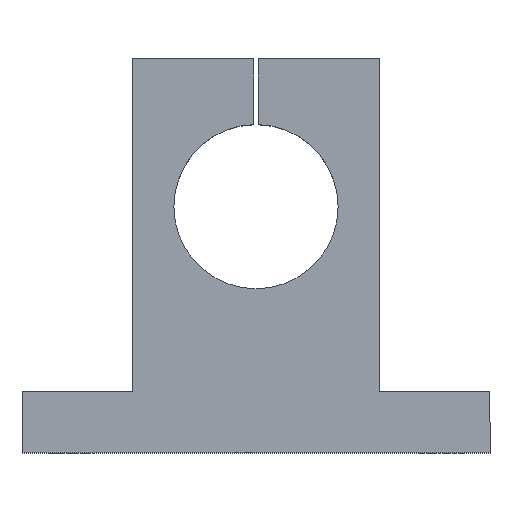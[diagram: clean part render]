
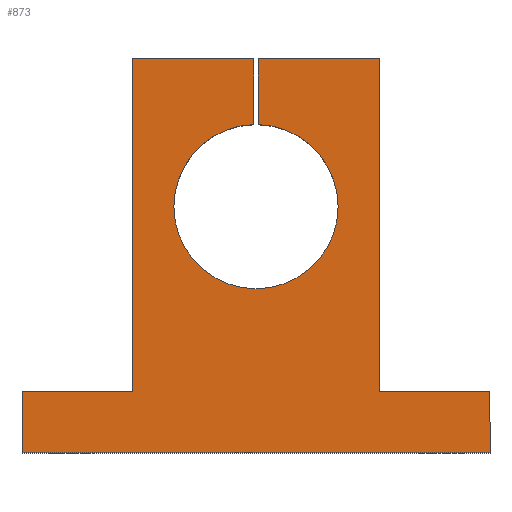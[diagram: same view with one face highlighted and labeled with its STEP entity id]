
A CAD part, top view. The second image highlights one B-rep face of the part: STEP entity #873.
In plain terms, the highlighted planar face has unit normal (0, 0, 1).
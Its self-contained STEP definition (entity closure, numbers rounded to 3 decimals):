
#51=CARTESIAN_POINT('',(77.302,57.903,36.0));
#52=VERTEX_POINT('',#51);
#59=CARTESIAN_POINT('',(57.802,77.897,36.0));
#60=VERTEX_POINT('',#59);
#61=CARTESIAN_POINT('',(57.302,57.903,36.0));
#62=DIRECTION('',(0.0,0.0,-1.0));
#63=DIRECTION('',(-1.0,0.0,0.0));
#64=AXIS2_PLACEMENT_3D('',#61,#62,#63);
#65=CIRCLE('',#64,20.0);
#66=EDGE_CURVE('',#60,#52,#65,.T.);
#91=CARTESIAN_POINT('',(37.302,57.903,36.0));
#92=VERTEX_POINT('',#91);
#101=CARTESIAN_POINT('',(57.302,57.903,36.0));
#102=DIRECTION('',(0.0,0.0,-1.0));
#103=DIRECTION('',(-1.0,0.0,0.0));
#104=AXIS2_PLACEMENT_3D('',#101,#102,#103);
#105=CIRCLE('',#104,20.0);
#106=EDGE_CURVE('',#52,#92,#105,.T.);
#590=CARTESIAN_POINT('',(56.802,77.897,36.0));
#591=VERTEX_POINT('',#590);
#606=CARTESIAN_POINT('',(56.802,93.903,36.0));
#607=VERTEX_POINT('',#606);
#614=CARTESIAN_POINT('',(56.802,77.897,36.0));
#615=DIRECTION('',(0.0,1.0,0.0));
#616=VECTOR('',#615,16.006);
#617=LINE('',#614,#616);
#618=EDGE_CURVE('',#591,#607,#617,.T.);
#633=CARTESIAN_POINT('',(57.802,93.903,36.0));
#634=VERTEX_POINT('',#633);
#635=CARTESIAN_POINT('',(57.802,93.903,36.0));
#636=DIRECTION('',(0.0,-1.0,0.0));
#637=VECTOR('',#636,16.006);
#638=LINE('',#635,#637);
#639=EDGE_CURVE('',#634,#60,#638,.T.);
#676=CARTESIAN_POINT('',(27.302,93.903,36.0));
#677=VERTEX_POINT('',#676);
#684=CARTESIAN_POINT('',(27.302,93.903,36.0));
#685=DIRECTION('',(1.0,0.0,0.0));
#686=VECTOR('',#685,29.5);
#687=LINE('',#684,#686);
#688=EDGE_CURVE('',#677,#607,#687,.T.);
#699=CARTESIAN_POINT('',(87.302,93.903,36.0));
#700=VERTEX_POINT('',#699);
#701=CARTESIAN_POINT('',(57.802,93.903,36.0));
#702=DIRECTION('',(1.0,0.0,0.0));
#703=VECTOR('',#702,29.5);
#704=LINE('',#701,#703);
#705=EDGE_CURVE('',#634,#700,#704,.T.);
#799=CARTESIAN_POINT('',(57.302,35.489,36.0));
#800=DIRECTION('',(0.0,0.0,1.0));
#801=DIRECTION('',(1.0,0.0,0.0));
#802=AXIS2_PLACEMENT_3D('',#799,#800,#801);
#803=PLANE('',#802);
#804=ORIENTED_EDGE('',*,*,#618,.T.);
#805=ORIENTED_EDGE('',*,*,#688,.F.);
#806=CARTESIAN_POINT('',(27.302,12.903,36.0));
#807=VERTEX_POINT('',#806);
#808=CARTESIAN_POINT('',(27.302,12.903,36.0));
#809=DIRECTION('',(0.0,1.0,0.0));
#810=VECTOR('',#809,81.);
#811=LINE('',#808,#810);
#812=EDGE_CURVE('',#807,#677,#811,.T.);
#813=ORIENTED_EDGE('',*,*,#812,.F.);
#814=CARTESIAN_POINT('',(0.302,12.903,36.0));
#815=VERTEX_POINT('',#814);
#816=CARTESIAN_POINT('',(0.302,12.903,36.0));
#817=DIRECTION('',(1.0,0.0,0.0));
#818=VECTOR('',#817,27.);
#819=LINE('',#816,#818);
#820=EDGE_CURVE('',#815,#807,#819,.T.);
#821=ORIENTED_EDGE('',*,*,#820,.F.);
#822=CARTESIAN_POINT('',(0.302,-2.097,36.0));
#823=VERTEX_POINT('',#822);
#824=CARTESIAN_POINT('',(0.302,-2.097,36.0));
#825=DIRECTION('',(0.0,1.0,0.0));
#826=VECTOR('',#825,15.0);
#827=LINE('',#824,#826);
#828=EDGE_CURVE('',#823,#815,#827,.T.);
#829=ORIENTED_EDGE('',*,*,#828,.F.);
#830=CARTESIAN_POINT('',(114.302,-2.097,36.0));
#831=VERTEX_POINT('',#830);
#832=CARTESIAN_POINT('',(114.302,-2.097,36.0));
#833=DIRECTION('',(-1.0,0.0,0.0));
#834=VECTOR('',#833,114.);
#835=LINE('',#832,#834);
#836=EDGE_CURVE('',#831,#823,#835,.T.);
#837=ORIENTED_EDGE('',*,*,#836,.F.);
#838=CARTESIAN_POINT('',(114.302,12.903,36.0));
#839=VERTEX_POINT('',#838);
#840=CARTESIAN_POINT('',(114.302,12.903,36.0));
#841=DIRECTION('',(0.0,-1.0,0.0));
#842=VECTOR('',#841,15.0);
#843=LINE('',#840,#842);
#844=EDGE_CURVE('',#839,#831,#843,.T.);
#845=ORIENTED_EDGE('',*,*,#844,.F.);
#846=CARTESIAN_POINT('',(87.302,12.903,36.0));
#847=VERTEX_POINT('',#846);
#848=CARTESIAN_POINT('',(87.302,12.903,36.0));
#849=DIRECTION('',(1.0,0.0,0.0));
#850=VECTOR('',#849,27.);
#851=LINE('',#848,#850);
#852=EDGE_CURVE('',#847,#839,#851,.T.);
#853=ORIENTED_EDGE('',*,*,#852,.F.);
#854=CARTESIAN_POINT('',(87.302,93.903,36.0));
#855=DIRECTION('',(0.0,-1.0,0.0));
#856=VECTOR('',#855,81.);
#857=LINE('',#854,#856);
#858=EDGE_CURVE('',#700,#847,#857,.T.);
#859=ORIENTED_EDGE('',*,*,#858,.F.);
#860=ORIENTED_EDGE('',*,*,#705,.F.);
#861=ORIENTED_EDGE('',*,*,#639,.T.);
#862=ORIENTED_EDGE('',*,*,#66,.T.);
#863=ORIENTED_EDGE('',*,*,#106,.T.);
#864=CARTESIAN_POINT('',(57.302,57.903,36.0));
#865=DIRECTION('',(0.0,0.0,-1.0));
#866=DIRECTION('',(-1.0,0.0,0.0));
#867=AXIS2_PLACEMENT_3D('',#864,#865,#866);
#868=CIRCLE('',#867,20.0);
#869=EDGE_CURVE('',#92,#591,#868,.T.);
#870=ORIENTED_EDGE('',*,*,#869,.T.);
#871=EDGE_LOOP('',(#804,#805,#813,#821,#829,#837,#845,#853,#859,#860,#861,#862,#863,#870));
#872=FACE_OUTER_BOUND('',#871,.T.);
#873=ADVANCED_FACE('',(#872),#803,.T.);
